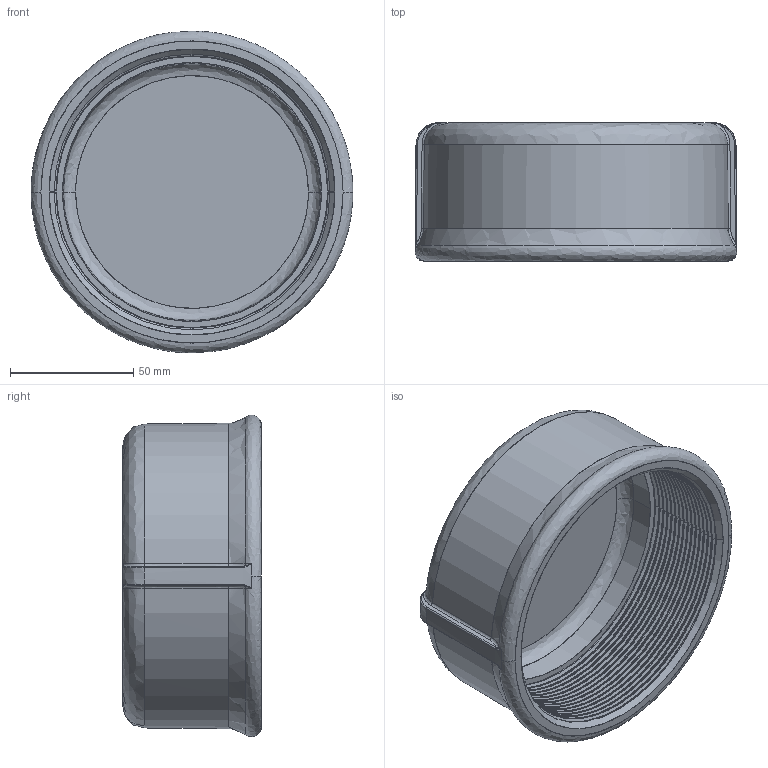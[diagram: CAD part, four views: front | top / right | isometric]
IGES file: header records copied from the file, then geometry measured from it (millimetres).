
Start section: SolidWorks IGES file using analytic representation for surfaces
Global section: file name: C:\Users\Joel Rosa\Desktop\Tubulação\12-42-XXX\12-42-014.IGS; native system: SolidWorks 2011; preprocessor: SolidWorks 2011; author: Joel Rosa; date: 131001.221040; units: millimetre
Bounding box: 130.6 x 56.3 x 130.6 mm (x, y, z)
Surface area: 70237.3 mm2 (no closed solid volume)
Topology: 0 solids, 0 shells, 300 faces, 2541 edges, 2539 vertices
Faces by surface type: bspline 228, revolution 72
